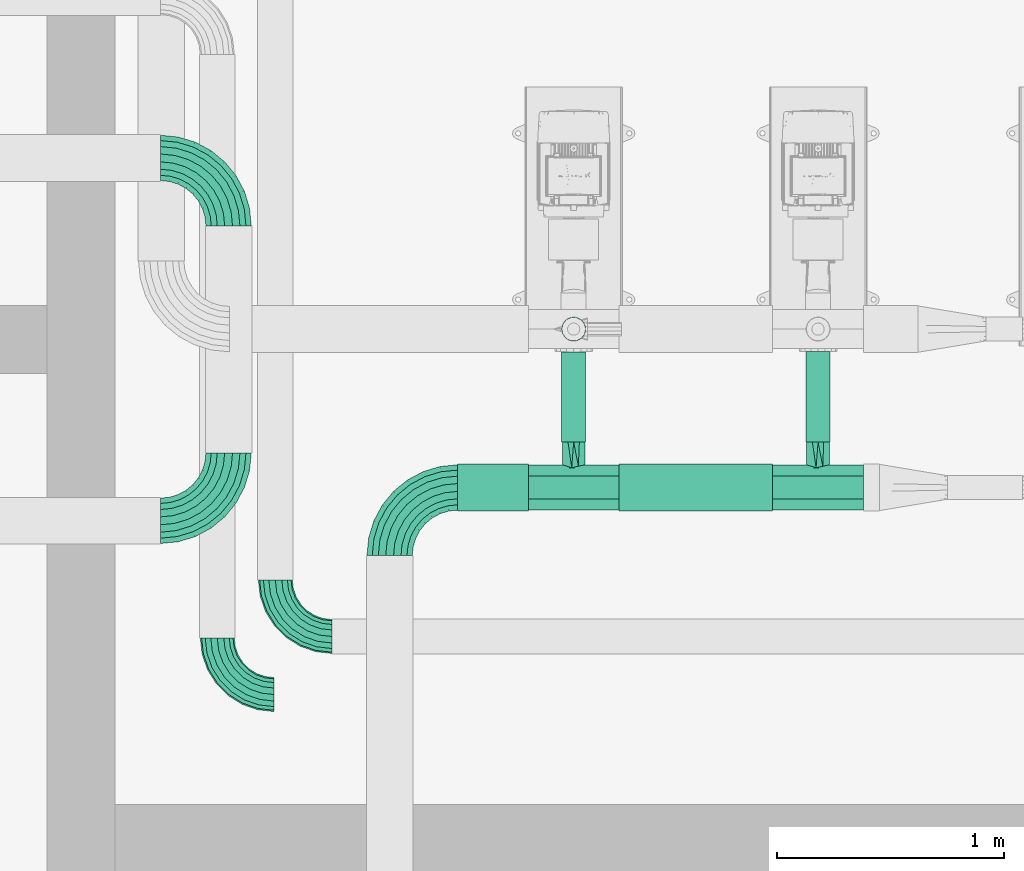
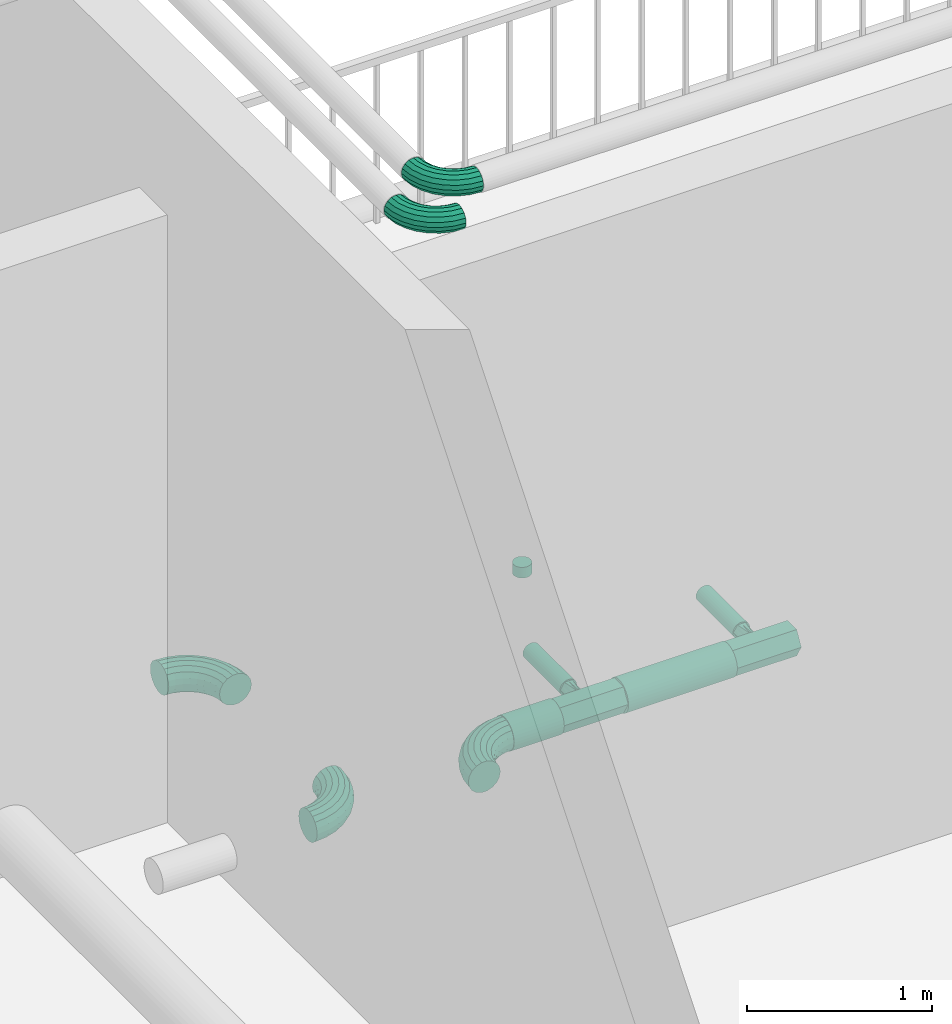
# One storey, part 9 of 28: 7 flow fittings, 5 flow segments.
"""IFC2X3 building model written with IfcOpenShell, lengths in millimetres."""

from ifc_helpers import new_model, entity, si_unit, converted_unit, direction, frame, frame_2d, origin, origin_2d_with_axis, place, context, subcontext, project, spatial, circle, extrude, faceted_brep, source, transform, mapped, material, type_object, type_shapes, element, save


model = new_model("IFC2X3")

# Units and contexts
model_context = context("Model", 3, precision=0.01, world=origin(), true_north=direction((6.123031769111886e-17, 1.0)))
body_context = subcontext(model_context, "Body", "Model", "MODEL_VIEW")
ifc_project = project(units=[si_unit("LENGTHUNIT", "METRE", prefix="MILLI"), converted_unit("PLANEANGLEUNIT", "DEGREE", entity("IfcPlaneAngleMeasure", 0.017453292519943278), si_unit("PLANEANGLEUNIT", "RADIAN"), dimensions=[0, 0, 0, 0, 0, 0, 0]), si_unit("AREAUNIT", "SQUARE_METRE")], contexts=[model_context])

# Site, building, storey
site_placement = place(None, frame((7776.576483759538, 118.3519876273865, 0.0)))
site = spatial("IfcSite", under=ifc_project, at=site_placement, Name="Default", CompositionType="ELEMENT")
building_placement = place(site_placement, origin())
building = spatial("IfcBuilding", under=site, at=building_placement, Name="Bygning (endres i Project Information)", CompositionType="ELEMENT")
storey_placement = place(building_placement, frame((0.0, 0.0, 14000.0)))
storey = spatial("IfcBuildingStorey", under=building, at=storey_placement, Name="Plan U1 - Arbeid", CompositionType="ELEMENT", Elevation=14000.000000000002)

# Flow segments
ifc_material = material(Name="SS 2343 Rustfritt stål, prosessrør, generisk")
pipe_segment_type = type_object("IfcPipeSegmentType", Name="Pipe Types:AISI 304L Rustfritt", PredefinedType="NOTDEFINED", material=ifc_material)
flow_segment_1_placement = place(storey_placement, origin())
element("IfcFlowSegment", 1, at=flow_segment_1_placement, inside=storey, type_object=pipe_segment_type, Name="Pipe Types:AISI 304L Rustfritt", ObjectType="Pipe Types:AISI 304L Rustfritt", context=body_context, shape_type="SweptSolid", body=[
    extrude(circle(Radius=53.0, at=origin_2d_with_axis()), frame((20922.997814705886, 26094.757305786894, 260.0), z_axis=(0.0, 1.0, 0.0), x_axis=(1.0, 0.0, 0.0)), (0.0, 0.0, 1.0), 398.478098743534),
])
flow_segment_2_placement = place(storey_placement, origin())
element("IfcFlowSegment", 2, at=flow_segment_2_placement, inside=storey, type_object=pipe_segment_type, Name="Pipe Types:AISI 304L Rustfritt", ObjectType="Pipe Types:AISI 304L Rustfritt", context=body_context, shape_type="SweptSolid", body=[
    extrude(circle(Radius=53.0, at=origin_2d_with_axis()), frame((19845.48035586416, 26094.757305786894, 260.0), z_axis=(0.0, 1.0, 0.0), x_axis=(1.0, 0.0, 0.0)), (0.0, 0.0, 1.0), 398.4673238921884),
])
flow_segment_3_placement = place(storey_placement, origin())
element("IfcFlowSegment", 3, at=flow_segment_3_placement, inside=storey, type_object=pipe_segment_type, Name="Pipe Types:AISI 304L Rustfritt", ObjectType="Pipe Types:AISI 304L Rustfritt", context=body_context, shape_type="SweptSolid", body=[
    extrude(circle(Radius=103.0, at=origin_2d_with_axis()), frame((20045.480355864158, 25894.757305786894, 260.0), z_axis=(1.0, 0.0, 0.0), x_axis=(0.0, -1.0, 0.0)), (0.0, 0.0, 1.0), 677.5174588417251),
])
flow_segment_4_placement = place(storey_placement, origin())
element("IfcFlowSegment", 4, at=flow_segment_4_placement, inside=storey, type_object=pipe_segment_type, Name="Pipe Types:AISI 304L Rustfritt", ObjectType="Pipe Types:AISI 304L Rustfritt", context=body_context, shape_type="SweptSolid", body=[
    extrude(circle(Radius=103.0, at=origin_2d_with_axis()), frame((19334.001374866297, 25894.757305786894, 260.0), z_axis=(1.0, 0.0, 0.0), x_axis=(0.0, -1.0, 0.0)), (0.0, 0.0, 1.0), 311.4789809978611),
])
flow_segment_5_placement = place(storey_placement, origin())
element("IfcFlowSegment", 5, at=flow_segment_5_placement, inside=storey, type_object=pipe_segment_type, Name="Pipe Types:AISI 304L Rustfritt", ObjectType="Pipe Types:AISI 304L Rustfritt", context=body_context, shape_type="SweptSolid", body=[
    extrude(circle(Radius=53.0, at=frame_2d((0.0, 4.331457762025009e-12), x_axis=(1.0, 0.0))), frame((19845.48035586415, 26592.96438606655, 715.0123617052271), z_axis=(0.0, 0.002228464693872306, 0.9999975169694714), x_axis=(-1.0, 0.0, 0.0)), (0.0, 0.0, 1.0), 70.00019208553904),
])

# Flow fittings
pipe_fitting_type_1 = type_object("IfcPipeFittingType", Name="VA_prosess_rustfritt_bend_D+100:VA_prosess_rustfritt_bend_D+100", PredefinedType="NOTDEFINED", material=ifc_material)
shared_shape_1 = source(origin(), body_context, "Body", "Brep", [
    faceted_brep([(-177.68069646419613, -66.85157145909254, 0.0), (-178.95107627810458, -61.28567382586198, 28.701257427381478), (-250.0, -69.29096493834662, 28.701257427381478), (-250.0, -75.0, 0.0), (-182.56881190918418, -45.43533838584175, 53.033008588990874), (-250.0, -53.03300858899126, 53.033008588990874), (-187.98313590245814, -21.7136350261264, 69.29096493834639), (-250.0, -28.70125742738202, 69.29096493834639), (-194.36976651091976, 6.268021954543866, 75.0), (-250.0, 0.0, 75.0), (-200.7563971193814, 34.24967893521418, 69.29096493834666), (-250.0, 28.701257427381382, 69.29096493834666), (-206.17072111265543, 57.97138229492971, 53.033008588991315), (-250.0, 53.03300858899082, 53.033008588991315), (-209.78845674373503, 73.82171773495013, 28.70125742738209), (-250.0, 69.29096493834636, 28.70125742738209), (-211.05883655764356, 79.38761536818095, 0.0), (-250.0, 75.0, 0.0), (-209.78845674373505, 73.82171773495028, -28.70125742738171), (-250.0, 69.29096493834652, -28.70125742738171), (-206.17072111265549, 57.971382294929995, -53.03300858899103), (-250.0, 53.03300858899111, -53.03300858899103), (-200.75639711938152, 34.24967893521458, -69.29096493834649), (-250.0, 28.701257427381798, -69.29096493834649), (-194.36976651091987, 6.268021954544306, -75.0), (-250.0, 0.0, -75.0), (-187.98313590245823, -21.713635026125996, -69.29096493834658), (-250.0, -28.701257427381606, -69.29096493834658), (-182.56881190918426, -45.43533838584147, -53.033008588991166), (-250.0, -53.033008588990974, -53.033008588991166), (-178.95107627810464, -61.28567382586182, -28.7012574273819), (-250.0, -69.29096493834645, -28.7012574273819), (-108.9877847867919, -42.814882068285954, 0.0), (-111.4648422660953, -37.67121921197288, 28.701257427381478), (-118.5189051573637, -23.023306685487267, 53.033008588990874), (-129.07605633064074, -1.1011563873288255, 69.29096493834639), (-141.52906522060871, 24.75778302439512, 75.0), (-153.98207411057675, 50.6167224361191, 69.29096493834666), (-164.53922528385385, 72.53887273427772, 53.033008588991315), (-171.5932881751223, 87.18678526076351, 28.70125742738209), (-174.07034565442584, 92.33044811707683, 0.0), (-171.59328817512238, 87.18678526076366, -28.70125742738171), (-164.53922528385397, 72.53887273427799, -53.03300858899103), (-153.98207411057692, 50.616722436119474, -69.29096493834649), (-141.5290652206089, 24.757783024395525, -75.0), (-129.0760563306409, -1.1011563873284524, -69.29096493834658), (-118.51890515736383, -23.02330668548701, -53.033008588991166), (-111.46484226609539, -37.67121921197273, -28.7012574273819), (-47.365814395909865, -4.095231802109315, 0.0), (-50.92533953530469, 0.36827154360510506, 28.701257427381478), (-61.062009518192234, 13.079253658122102, 53.033008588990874), (-76.23260822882, 32.10258273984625, 69.29096493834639), (-94.12754953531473, 54.54212938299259, 75.0), (-112.02249084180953, 76.98167602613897, 69.29096493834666), (-127.19308955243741, 96.00500510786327, 53.033008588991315), (-137.32975953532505, 108.71598722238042, 28.70125742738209), (-140.88928467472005, 113.17949056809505, 0.0), (-137.32975953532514, 108.71598722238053, -28.70125742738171), (-127.19308955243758, 96.0050051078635, -53.03300858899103), (-112.02249084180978, 76.9816760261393, -69.29096493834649), (-94.12754953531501, 54.54212938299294, -75.0), (-76.23260822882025, 32.10258273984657, -69.29096493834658), (-61.06200951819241, 13.079253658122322, -53.033008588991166), (-50.92533953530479, 0.36827154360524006, -28.7012574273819), (4.095231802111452, 47.36581439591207, 0.0), (-0.36827154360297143, 50.9253395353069, 28.701257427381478), (-13.079253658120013, 61.06200951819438, 53.033008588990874), (-32.10258273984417, 76.23260822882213, 69.29096493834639), (-54.54212938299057, 94.12754953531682, 75.0), (-76.981676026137, 112.02249084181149, 69.29096493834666), (-96.00500510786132, 127.19308955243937, 53.033008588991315), (-108.71598722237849, 137.32975953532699, 28.70125742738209), (-113.17949056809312, 140.88928467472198, 0.0), (-108.71598722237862, 137.32975953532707, -28.70125742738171), (-96.00500510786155, 127.19308955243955, -53.03300858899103), (-76.98167602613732, 112.02249084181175, -69.29096493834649), (-54.542129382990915, 94.1275495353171, -75.0), (-32.1025827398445, 76.23260822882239, -69.29096493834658), (-13.079253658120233, 61.06200951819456, -53.033008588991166), (-0.3682715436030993, 50.925339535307, -28.7012574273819), (42.81488206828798, 108.98778478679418, 0.0), (37.671219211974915, 111.4648422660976, 28.701257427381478), (23.023306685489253, 118.51890515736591, 53.033008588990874), (1.1011563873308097, 129.0760563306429, 69.29096493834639), (-24.75778302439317, 141.52906522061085, 75.0), (-50.61672243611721, 153.98207411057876, 69.29096493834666), (-72.53887273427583, 164.53922528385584, 53.033008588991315), (-87.18678526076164, 171.59328817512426, 28.70125742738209), (-92.33044811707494, 174.0703456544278, 0.0), (-87.18678526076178, 171.59328817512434, -28.70125742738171), (-72.53887273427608, 164.53922528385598, -53.03300858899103), (-50.61672243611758, 153.98207411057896, -69.29096493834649), (-24.757783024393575, 141.52906522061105, -75.0), (1.101156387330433, 129.0760563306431, -69.29096493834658), (23.023306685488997, 118.51890515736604, -53.033008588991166), (37.67121921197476, 111.46484226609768, -28.7012574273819), (66.8515714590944, 177.68069646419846, 0.0), (61.285673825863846, 178.9510762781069, 28.701257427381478), (45.4353383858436, 182.56881190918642, 53.033008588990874), (21.713635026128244, 187.98313590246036, 69.29096493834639), (-6.268021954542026, 194.36976651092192, 75.0), (-34.24967893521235, 200.75639711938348, 69.29096493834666), (-57.9713822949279, 206.17072111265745, 53.033008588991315), (-73.82171773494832, 209.78845674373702, 28.70125742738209), (-79.38761536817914, 211.05883655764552, 0.0), (-73.82171773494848, 209.78845674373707, -28.70125742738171), (-57.97138229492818, 206.1707211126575, -53.03300858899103), (-34.249678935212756, 200.75639711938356, -69.29096493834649), (-6.268021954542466, 194.36976651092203, -75.0), (21.71363502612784, 187.98313590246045, -69.29096493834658), (45.43533838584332, 182.5688119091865, -53.033008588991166), (61.28567382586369, 178.95107627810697, -28.7012574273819), (75.0, 250.0, 0.0), (69.29096493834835, 250.0, 28.701257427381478), (53.033008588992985, 250.0, 53.033008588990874), (28.701257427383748, 250.0, 69.29096493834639), (0.0, 250.0, 75.0), (-28.701257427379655, 250.0, 69.29096493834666), (-53.03300858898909, 250.0, 53.033008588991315), (-69.29096493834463, 250.0, 28.70125742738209), (-75.0, 250.0, 0.0), (-69.29096493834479, 250.0, -28.70125742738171), (-53.03300858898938, 250.0, -53.03300858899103), (-28.70125742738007, 250.0, -69.29096493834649), (0.0, 250.0, -75.0), (28.701257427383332, 250.0, -69.29096493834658), (53.0330085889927, 250.0, -53.033008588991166), (69.29096493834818, 250.0, -28.7012574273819)], [[[0, 1, 2, 3]], [[1, 4, 5, 2]], [[4, 6, 7, 5]], [[6, 8, 9, 7]], [[8, 10, 11, 9]], [[10, 12, 13, 11]], [[12, 14, 15, 13]], [[14, 16, 17, 15]], [[16, 18, 19, 17]], [[18, 20, 21, 19]], [[20, 22, 23, 21]], [[22, 24, 25, 23]], [[24, 26, 27, 25]], [[26, 28, 29, 27]], [[28, 30, 31, 29]], [[30, 0, 3, 31]], [[32, 33, 1, 0]], [[33, 34, 4, 1]], [[34, 35, 6, 4]], [[35, 36, 8, 6]], [[36, 37, 10, 8]], [[37, 38, 12, 10]], [[38, 39, 14, 12]], [[39, 40, 16, 14]], [[40, 41, 18, 16]], [[41, 42, 20, 18]], [[42, 43, 22, 20]], [[43, 44, 24, 22]], [[44, 45, 26, 24]], [[45, 46, 28, 26]], [[46, 47, 30, 28]], [[47, 32, 0, 30]], [[48, 49, 33, 32]], [[49, 50, 34, 33]], [[50, 51, 35, 34]], [[51, 52, 36, 35]], [[52, 53, 37, 36]], [[53, 54, 38, 37]], [[54, 55, 39, 38]], [[55, 56, 40, 39]], [[56, 57, 41, 40]], [[57, 58, 42, 41]], [[58, 59, 43, 42]], [[59, 60, 44, 43]], [[60, 61, 45, 44]], [[61, 62, 46, 45]], [[62, 63, 47, 46]], [[63, 48, 32, 47]], [[64, 65, 49, 48]], [[65, 66, 50, 49]], [[66, 67, 51, 50]], [[67, 68, 52, 51]], [[68, 69, 53, 52]], [[69, 70, 54, 53]], [[70, 71, 55, 54]], [[71, 72, 56, 55]], [[72, 73, 57, 56]], [[73, 74, 58, 57]], [[74, 75, 59, 58]], [[75, 76, 60, 59]], [[76, 77, 61, 60]], [[77, 78, 62, 61]], [[78, 79, 63, 62]], [[79, 64, 48, 63]], [[80, 81, 65, 64]], [[81, 82, 66, 65]], [[82, 83, 67, 66]], [[83, 84, 68, 67]], [[84, 85, 69, 68]], [[85, 86, 70, 69]], [[86, 87, 71, 70]], [[87, 88, 72, 71]], [[88, 89, 73, 72]], [[89, 90, 74, 73]], [[90, 91, 75, 74]], [[91, 92, 76, 75]], [[92, 93, 77, 76]], [[93, 94, 78, 77]], [[94, 95, 79, 78]], [[95, 80, 64, 79]], [[96, 97, 81, 80]], [[97, 98, 82, 81]], [[98, 99, 83, 82]], [[99, 100, 84, 83]], [[100, 101, 85, 84]], [[101, 102, 86, 85]], [[102, 103, 87, 86]], [[103, 104, 88, 87]], [[104, 105, 89, 88]], [[105, 106, 90, 89]], [[106, 107, 91, 90]], [[107, 108, 92, 91]], [[108, 109, 93, 92]], [[109, 110, 94, 93]], [[110, 111, 95, 94]], [[111, 96, 80, 95]], [[112, 113, 97, 96]], [[113, 114, 98, 97]], [[114, 115, 99, 98]], [[115, 116, 100, 99]], [[116, 117, 101, 100]], [[117, 118, 102, 101]], [[118, 119, 103, 102]], [[119, 120, 104, 103]], [[120, 121, 105, 104]], [[121, 122, 106, 105]], [[122, 123, 107, 106]], [[123, 124, 108, 107]], [[124, 125, 109, 108]], [[125, 126, 110, 109]], [[126, 127, 111, 110]], [[127, 112, 96, 111]], [[3, 2, 5, 7, 9, 11, 13, 15, 17, 19, 21, 23, 25, 27, 29, 31]], [[127, 126, 125, 124, 123, 122, 121, 120, 119, 118, 117, 116, 115, 114, 113, 112]]]),
])
type_shapes(pipe_fitting_type_1, [shared_shape_1])
for number, where, z_axis, x_axis in (
    (6, (18274.00137486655, 24981.757305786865, 4500.0), (0.0, 0.0, 1.0), (0.0, -1.0, 0.0)),
    (7, (18530.00137486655, 25237.75730578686, 4500.0), (0.0, 0.0, 1.0), (0.0, -1.0, 0.0)),
):
    element("IfcFlowFitting", number, at=place(storey_placement, frame(where, z_axis=z_axis, x_axis=x_axis)), inside=storey, type_object=pipe_fitting_type_1, material=ifc_material, Name="VA_prosess_rustfritt_bend_D+100:VA_prosess_rustfritt_bend_D+100", ObjectType="VA_prosess_rustfritt_bend_D+100:VA_prosess_rustfritt_bend_D+100", context=body_context, shape_type="MappedRepresentation", body=[
        mapped(shared_shape_1, transform((0.0, 0.0, 0.0), scale=1.0)),
    ])
pipe_fitting_type_2 = type_object("IfcPipeFittingType", Name="VA_prosess_rustfritt_bend_D+100:VA_prosess_rustfritt_bend_D+100", PredefinedType="NOTDEFINED", material=ifc_material)
shared_shape_2 = source(origin(), body_context, "Body", "Brep", [
    faceted_brep([(-221.96387119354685, -92.314112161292, 0.0), (-223.1404097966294, -86.39925317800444, 34.202014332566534), (-300.0, -93.96926207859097, 34.202014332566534), (-300.0, -100.0, 0.0), (-226.52811768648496, -69.36809551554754, 64.27876096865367), (-300.0, -76.60444431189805, 64.27876096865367), (-231.71838729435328, -43.274848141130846, 86.60254037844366), (-300.0, -50.0, 86.60254037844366), (-238.08519550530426, -11.266741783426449, 98.48077530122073), (-300.0, -17.36481776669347, 98.48077530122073), (-244.86061128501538, 22.79557354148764, 98.48077530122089), (-300.0, 17.36481776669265, 98.48077530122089), (-251.22741949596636, 54.80367989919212, 86.60254037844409), (-300.0, 50.0, 86.60254037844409), (-256.41768910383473, 80.89692727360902, 64.27876096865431), (-300.0, 76.60444431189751, 64.27876096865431), (-259.8053969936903, 97.92808493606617, 34.202014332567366), (-300.0, 93.96926207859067, 34.202014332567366), (-260.9819355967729, 103.84294391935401, 0.0), (-300.0, 100.0, 0.0), (-259.8053969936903, 97.92808493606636, -34.20201433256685), (-300.0, 93.96926207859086, -34.20201433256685), (-256.4176891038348, 80.89692727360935, -64.2787609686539), (-300.0, 76.60444431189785, -64.2787609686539), (-251.22741949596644, 54.80367989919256, -86.60254037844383), (-300.0, 50.0, -86.60254037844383), (-244.86061128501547, 22.795573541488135, -98.48077530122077), (-300.0, 17.364817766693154, -98.48077530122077), (-238.08519550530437, -11.26674178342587, -98.48077530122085), (-300.0, -17.36481776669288, -98.48077530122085), (-231.71838729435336, -43.27484814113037, -86.60254037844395), (-300.0, -50.0, -86.60254037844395), (-226.52811768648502, -69.3680955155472, -64.27876096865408), (-300.0, -76.6044443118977, -64.27876096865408), (-223.14040979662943, -86.39925317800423, -34.2020143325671), (-300.0, -93.96926207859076, -34.2020143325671), (-146.9266270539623, -69.55181300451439, 0.0), (-149.2344905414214, -63.98013767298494, 34.202014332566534), (-155.87971860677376, -47.937137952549, 64.27876096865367), (-166.06079867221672, -23.357836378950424, 86.60254037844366), (-178.54974222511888, 6.79314052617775, 98.48077530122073), (-191.8401983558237, 38.87913996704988, 98.48077530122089), (-204.32914190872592, 69.03011687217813, 86.60254037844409), (-214.51022197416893, 93.6094184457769, 64.27876096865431), (-221.15545003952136, 109.65241816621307, 34.202014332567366), (-223.46331352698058, 115.2240934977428, 0.0), (-221.15545003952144, 109.65241816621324, -34.20201433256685), (-214.51022197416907, 93.60941844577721, -64.2787609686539), (-204.3291419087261, 69.03011687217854, -86.60254037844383), (-191.8401983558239, 38.87913996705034, -98.48077530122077), (-178.5497422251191, 6.7931405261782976, -98.48077530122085), (-166.0607986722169, -23.357836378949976, -86.60254037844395), (-155.8797186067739, -47.937137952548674, -64.27876096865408), (-149.23449054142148, -63.98013767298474, -34.2020143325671), (-77.77190679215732, -32.58784492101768, 0.0), (-81.12240526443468, -27.573469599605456, 34.202014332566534), (-90.76978111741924, -13.135151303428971, 64.27876096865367), (-105.5504184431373, 8.985635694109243, 86.60254037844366), (-123.68155424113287, 36.120798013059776, 98.48077530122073), (-142.97630594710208, 64.997434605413, 98.48077530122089), (-161.1074417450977, 92.13259692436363, 86.60254037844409), (-175.88807907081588, 114.253383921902, 64.27876096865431), (-185.53545492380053, 128.69170221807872, 34.202014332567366), (-188.88595339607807, 133.70607753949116, 0.0), (-185.53545492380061, 128.69170221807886, -34.20201433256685), (-175.88807907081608, 114.25338392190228, -64.2787609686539), (-161.10744174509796, 92.132596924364, -86.60254037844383), (-142.97630594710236, 64.99743460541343, -98.48077530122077), (-123.68155424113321, 36.120798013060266, -98.48077530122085), (-105.55041844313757, 8.985635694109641, -86.60254037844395), (-90.76978111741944, -13.135151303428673, -64.27876096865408), (-81.12240526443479, -27.573469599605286, -34.2020143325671), (-17.15728752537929, 17.157287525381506, 0.0), (-21.421663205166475, 21.42166320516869, 34.202014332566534), (-33.70044360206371, 33.700443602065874, 64.27876096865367), (-52.51262658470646, 52.512626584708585, 86.60254037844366), (-75.58918524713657, 75.58918524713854, 98.48077530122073), (-100.14674604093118, 100.14674604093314, 98.48077530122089), (-123.22330470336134, 123.22330470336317, 86.60254037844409), (-142.03548768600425, 142.035487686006, 64.27876096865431), (-154.3142680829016, 154.3142680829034, 34.202014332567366), (-158.578643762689, 158.57864376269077, 0.0), (-154.31426808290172, 154.31426808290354, -34.20201433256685), (-142.03548768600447, 142.03548768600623, -64.2787609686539), (-123.22330470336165, 123.2233047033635, -86.60254037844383), (-100.14674604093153, 100.1467460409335, -98.48077530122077), (-75.58918524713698, 75.58918524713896, -98.48077530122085), (-52.51262658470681, 52.512626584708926, -86.60254037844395), (-33.700443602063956, 33.70044360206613, -64.27876096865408), (-21.42166320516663, 21.421663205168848, -34.2020143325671), (32.58784492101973, 77.77190679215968, 0.0), (27.573469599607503, 81.12240526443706, 34.202014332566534), (13.135151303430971, 90.76978111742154, 64.27876096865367), (-8.985635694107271, 105.55041844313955, 86.60254037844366), (-36.1207980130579, 123.68155424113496, 98.48077530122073), (-64.99743460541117, 142.97630594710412, 98.48077530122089), (-92.13259692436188, 161.10744174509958, 86.60254037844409), (-114.25338392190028, 175.88807907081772, 64.27876096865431), (-128.69170221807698, 185.53545492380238, 34.202014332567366), (-133.70607753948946, 188.8859533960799, 0.0), (-128.69170221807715, 185.5354549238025, -34.20201433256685), (-114.25338392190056, 175.8880790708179, -64.2787609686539), (-92.13259692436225, 161.10744174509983, -86.60254037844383), (-64.99743460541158, 142.9763059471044, -98.48077530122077), (-36.12079801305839, 123.68155424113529, -98.48077530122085), (-8.985635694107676, 105.55041844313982, -86.60254037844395), (13.13515130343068, 90.76978111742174, -64.27876096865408), (27.573469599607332, 81.12240526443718, -34.2020143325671), (69.55181300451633, 146.92662705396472, 0.0), (63.98013767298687, 149.23449054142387, 34.202014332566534), (47.937137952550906, 155.87971860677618, 64.27876096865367), (23.357836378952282, 166.06079867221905, 86.60254037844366), (-6.793140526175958, 178.54974222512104, 98.48077530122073), (-38.879139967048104, 191.8401983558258, 98.48077530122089), (-69.03011687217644, 204.32914190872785, 86.60254037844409), (-93.60941844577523, 214.5102219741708, 64.27876096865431), (-109.65241816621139, 221.15545003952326, 34.202014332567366), (-115.22409349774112, 223.46331352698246, 0.0), (-109.65241816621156, 221.15545003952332, -34.20201433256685), (-93.60941844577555, 214.51022197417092, -64.2787609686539), (-69.03011687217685, 204.32914190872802, -86.60254037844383), (-38.87913996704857, 191.840198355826, -98.48077530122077), (-6.793140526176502, 178.54974222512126, -98.48077530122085), (23.357836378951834, 166.06079867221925, -86.60254037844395), (47.93713795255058, 155.87971860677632, -64.27876096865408), (63.98013767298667, 149.23449054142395, -34.2020143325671), (92.31411216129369, 221.96387119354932, 0.0), (86.39925317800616, 223.1404097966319, 34.202014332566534), (69.36809551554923, 226.52811768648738, 64.27876096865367), (43.27484814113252, 231.71838729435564, 86.60254037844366), (11.266741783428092, 238.08519550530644, 98.48077530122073), (-22.795573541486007, 244.86061128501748, 98.48077530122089), (-54.80367989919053, 251.22741949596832, 86.60254037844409), (-80.89692727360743, 256.4176891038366, 64.27876096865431), (-97.9280849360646, 259.80539699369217, 34.202014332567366), (-103.84294391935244, 260.9819355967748, 0.0), (-97.92808493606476, 259.8053969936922, -34.20201433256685), (-80.89692727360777, 256.41768910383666, -64.2787609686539), (-54.80367989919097, 251.2274194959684, -86.60254037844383), (-22.795573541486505, 244.8606112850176, -98.48077530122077), (11.266741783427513, 238.08519550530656, -98.48077530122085), (43.27484814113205, 231.71838729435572, -86.60254037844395), (69.36809551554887, 226.52811768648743, -64.27876096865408), (86.39925317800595, 223.14040979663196, -34.2020143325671), (100.0, 300.0, 0.0), (93.96926207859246, 300.0, 34.202014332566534), (76.60444431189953, 300.0, 64.27876096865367), (50.0, 300.0, 86.60254037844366), (17.36481776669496, 300.0, 98.48077530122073), (-17.36481776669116, 300.0, 98.48077530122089), (-50.0, 300.0, 86.60254037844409), (-76.60444431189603, 300.0, 64.27876096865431), (-93.9692620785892, 300.0, 34.202014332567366), (-100.0, 300.0, 0.0), (-93.96926207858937, 300.0, -34.20201433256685), (-76.60444431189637, 300.0, -64.2787609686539), (-50.0, 300.0, -86.60254037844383), (-17.364817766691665, 300.0, -98.48077530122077), (17.36481776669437, 300.0, -98.48077530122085), (50.0, 300.0, -86.60254037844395), (76.60444431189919, 300.0, -64.27876096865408), (93.96926207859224, 300.0, -34.2020143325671)], [[[0, 1, 2, 3]], [[1, 4, 5, 2]], [[4, 6, 7, 5]], [[6, 8, 9, 7]], [[8, 10, 11, 9]], [[10, 12, 13, 11]], [[12, 14, 15, 13]], [[14, 16, 17, 15]], [[16, 18, 19, 17]], [[18, 20, 21, 19]], [[20, 22, 23, 21]], [[22, 24, 25, 23]], [[24, 26, 27, 25]], [[26, 28, 29, 27]], [[28, 30, 31, 29]], [[30, 32, 33, 31]], [[32, 34, 35, 33]], [[34, 0, 3, 35]], [[36, 37, 1, 0]], [[37, 38, 4, 1]], [[38, 39, 6, 4]], [[39, 40, 8, 6]], [[40, 41, 10, 8]], [[41, 42, 12, 10]], [[42, 43, 14, 12]], [[43, 44, 16, 14]], [[44, 45, 18, 16]], [[45, 46, 20, 18]], [[46, 47, 22, 20]], [[47, 48, 24, 22]], [[48, 49, 26, 24]], [[49, 50, 28, 26]], [[50, 51, 30, 28]], [[51, 52, 32, 30]], [[52, 53, 34, 32]], [[53, 36, 0, 34]], [[54, 55, 37, 36]], [[55, 56, 38, 37]], [[56, 57, 39, 38]], [[57, 58, 40, 39]], [[58, 59, 41, 40]], [[59, 60, 42, 41]], [[60, 61, 43, 42]], [[61, 62, 44, 43]], [[62, 63, 45, 44]], [[63, 64, 46, 45]], [[64, 65, 47, 46]], [[65, 66, 48, 47]], [[66, 67, 49, 48]], [[67, 68, 50, 49]], [[68, 69, 51, 50]], [[69, 70, 52, 51]], [[70, 71, 53, 52]], [[71, 54, 36, 53]], [[72, 73, 55, 54]], [[73, 74, 56, 55]], [[74, 75, 57, 56]], [[75, 76, 58, 57]], [[76, 77, 59, 58]], [[77, 78, 60, 59]], [[78, 79, 61, 60]], [[79, 80, 62, 61]], [[80, 81, 63, 62]], [[81, 82, 64, 63]], [[82, 83, 65, 64]], [[83, 84, 66, 65]], [[84, 85, 67, 66]], [[85, 86, 68, 67]], [[86, 87, 69, 68]], [[87, 88, 70, 69]], [[88, 89, 71, 70]], [[89, 72, 54, 71]], [[90, 91, 73, 72]], [[91, 92, 74, 73]], [[92, 93, 75, 74]], [[93, 94, 76, 75]], [[94, 95, 77, 76]], [[95, 96, 78, 77]], [[96, 97, 79, 78]], [[97, 98, 80, 79]], [[98, 99, 81, 80]], [[99, 100, 82, 81]], [[100, 101, 83, 82]], [[101, 102, 84, 83]], [[102, 103, 85, 84]], [[103, 104, 86, 85]], [[104, 105, 87, 86]], [[105, 106, 88, 87]], [[106, 107, 89, 88]], [[107, 90, 72, 89]], [[108, 109, 91, 90]], [[109, 110, 92, 91]], [[110, 111, 93, 92]], [[111, 112, 94, 93]], [[112, 113, 95, 94]], [[113, 114, 96, 95]], [[114, 115, 97, 96]], [[115, 116, 98, 97]], [[116, 117, 99, 98]], [[117, 118, 100, 99]], [[118, 119, 101, 100]], [[119, 120, 102, 101]], [[120, 121, 103, 102]], [[121, 122, 104, 103]], [[122, 123, 105, 104]], [[123, 124, 106, 105]], [[124, 125, 107, 106]], [[125, 108, 90, 107]], [[126, 127, 109, 108]], [[127, 128, 110, 109]], [[128, 129, 111, 110]], [[129, 130, 112, 111]], [[130, 131, 113, 112]], [[131, 132, 114, 113]], [[132, 133, 115, 114]], [[133, 134, 116, 115]], [[134, 135, 117, 116]], [[135, 136, 118, 117]], [[136, 137, 119, 118]], [[137, 138, 120, 119]], [[138, 139, 121, 120]], [[139, 140, 122, 121]], [[140, 141, 123, 122]], [[141, 142, 124, 123]], [[142, 143, 125, 124]], [[143, 126, 108, 125]], [[144, 145, 127, 126]], [[145, 146, 128, 127]], [[146, 147, 129, 128]], [[147, 148, 130, 129]], [[148, 149, 131, 130]], [[149, 150, 132, 131]], [[150, 151, 133, 132]], [[151, 152, 134, 133]], [[152, 153, 135, 134]], [[153, 154, 136, 135]], [[154, 155, 137, 136]], [[155, 156, 138, 137]], [[156, 157, 139, 138]], [[157, 158, 140, 139]], [[158, 159, 141, 140]], [[159, 160, 142, 141]], [[160, 161, 143, 142]], [[161, 144, 126, 143]], [[3, 2, 5, 7, 9, 11, 13, 15, 17, 19, 21, 23, 25, 27, 29, 31, 33, 35]], [[161, 160, 159, 158, 157, 156, 155, 154, 153, 152, 151, 150, 149, 148, 147, 146, 145, 144]]]),
])
type_shapes(pipe_fitting_type_2, [shared_shape_2])
flow_fitting_placement = place(storey_placement, frame((18324.001374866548, 25747.7573057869, 203.0)))
element("IfcFlowFitting", 8, at=flow_fitting_placement, inside=storey, type_object=pipe_fitting_type_2, material=ifc_material, Name="VA_prosess_rustfritt_bend_D+100:VA_prosess_rustfritt_bend_D+100", ObjectType="VA_prosess_rustfritt_bend_D+100:VA_prosess_rustfritt_bend_D+100", context=body_context, shape_type="MappedRepresentation", body=[
    mapped(shared_shape_2, transform((0.0, 0.0, 0.0), scale=1.0)),
])
for number, where, z_axis, x_axis in (
    (9, (18324.00137486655, 27347.757305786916, 203.0), (0.0, 0.0, 1.0), (0.0, 1.0, 0.0)),
    (10, (19034.001374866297, 25894.757305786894, 260.0), (0.0, -2.6047388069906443e-05, 1.0), (-1.0, 0.0, 0.0)),
):
    element("IfcFlowFitting", number, at=place(storey_placement, frame(where, z_axis=z_axis, x_axis=x_axis)), inside=storey, type_object=pipe_fitting_type_2, material=ifc_material, Name="VA_prosess_rustfritt_bend_D+100:VA_prosess_rustfritt_bend_D+100", ObjectType="VA_prosess_rustfritt_bend_D+100:VA_prosess_rustfritt_bend_D+100", context=body_context, shape_type="MappedRepresentation", body=[
        mapped(shared_shape_2, transform((0.0, 0.0, 0.0), scale=1.0)),
    ])
pipe_fitting_type_3 = type_object("IfcPipeFittingType", Name="VA_prosess_rustfritt_T_D=L:T-rør_prosess_D=L", PredefinedType="NOTDEFINED", material=ifc_material)
shared_shape_3 = source(origin(), body_context, "Body", "Brep", [
    faceted_brep([(-200.0, -100.0, 0.0), (-200.0, -75.0, 43.30127018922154), (-200.0, -50.0, 86.60254037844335), (-200.0, 0.0, 86.60254037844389), (-200.0, 50.0, 86.60254037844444), (-200.0, 75.0, 43.30127018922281), (-200.0, 100.0, 0.0), (-200.0, 75.0, -43.30127018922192), (-200.0, 50.0, -86.60254037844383), (-200.0, 0.0, -86.60254037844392), (-200.0, -50.0, -86.60254037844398), (-200.0, -75.0, -43.301270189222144), (200.0, 50.0, -86.60254037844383), (200.0, 75.0, -43.30127018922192), (200.0, 100.0, 0.0), (200.0, 79.16042409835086, 36.095204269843), (200.0, 50.0, 86.60254037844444), (200.0, 0.0, 86.60254037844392), (200.0, -50.0, 86.60254037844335), (200.0, -75.0, 43.3012701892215), (200.0, -100.0, 0.0), (200.0, -75.0, -43.30127018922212), (200.0, -50.0, -86.60254037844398), (200.0, 0.0, -86.60254037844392), (50.0, -100.0, 0.0), (-50.0, -100.0, 0.0), (-20.591033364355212, -93.52515349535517, 24.60814932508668), (8.817933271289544, -87.05030699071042, 49.216298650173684), (29.408966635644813, -93.52515349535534, 24.60814932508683), (20.594032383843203, -93.52484980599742, -24.60868646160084), (-8.811935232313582, -87.04969961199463, -49.21737292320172), (-29.4059676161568, -93.52484980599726, -24.608686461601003), (-36.99869875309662, -200.0, -22.518914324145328), (-25.0, -200.0, -43.30127018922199), (0.0, -200.0, -43.30127018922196), (25.0, -200.0, -43.30127018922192), (36.998698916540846, -200.0, -22.51891404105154), (50.0, -200.0, 0.0), (36.99869857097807, -200.0, 22.518914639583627), (25.0, -200.0, 43.30127018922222), (0.0, -200.0, 43.301270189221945), (-25.0, -200.0, 43.301270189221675), (-36.99869904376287, -200.0, 22.518913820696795), (-50.0, -200.0, 0.0)], [[[0, 1, 2, 3, 4, 5, 6, 7, 8, 9, 10, 11]], [[12, 13, 14, 15, 16, 17, 18, 19, 20, 21, 22, 23]], [[20, 19, 24]], [[25, 1, 0]], [[1, 25, 26, 27]], [[27, 2, 1]], [[19, 27, 28, 24]], [[19, 18, 27]], [[18, 17, 16, 4, 3, 2]], [[16, 15, 14, 6, 5, 4]], [[18, 2, 27]], [[6, 14, 13, 12, 8, 7]], [[12, 23, 22, 10, 9, 8]], [[21, 20, 24]], [[25, 0, 11]], [[21, 24, 29, 30]], [[11, 30, 31, 25]], [[30, 22, 21]], [[30, 11, 10]], [[22, 30, 10]], [[32, 33, 34, 35, 36, 37, 38, 39, 40, 41, 42, 43]], [[26, 42, 41]], [[26, 41, 40]], [[26, 25, 42]], [[28, 39, 38]], [[26, 40, 27]], [[25, 43, 42]], [[27, 39, 28]], [[38, 24, 28]], [[27, 40, 39]], [[38, 37, 24]], [[29, 36, 35]], [[29, 35, 34]], [[29, 24, 36]], [[31, 33, 32]], [[29, 34, 30]], [[24, 37, 36]], [[30, 33, 31]], [[32, 25, 31]], [[30, 34, 33]], [[32, 43, 25]]]),
])
type_shapes(pipe_fitting_type_3, [shared_shape_3])
for number, where, z_axis, x_axis in (
    (11, (20922.997814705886, 25894.757305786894, 260.0), (0.0, 0.0, 1.0), (-1.0, 0.0, 0.0)),
    (12, (19845.48035586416, 25894.757305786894, 260.0), (0.0, 0.0, 1.0), (-1.0, 0.0, 0.0)),
):
    element("IfcFlowFitting", number, at=place(storey_placement, frame(where, z_axis=z_axis, x_axis=x_axis)), inside=storey, type_object=pipe_fitting_type_3, material=ifc_material, Name="VA_prosess_rustfritt_T_D=L:T-rør_prosess_D=L", ObjectType="VA_prosess_rustfritt_T_D=L:T-rør_prosess_D=L", context=body_context, shape_type="MappedRepresentation", body=[
        mapped(shared_shape_3, transform((0.0, 0.0, 0.0), scale=1.0)),
    ])

save(model, "model.ifc")
